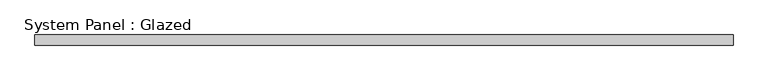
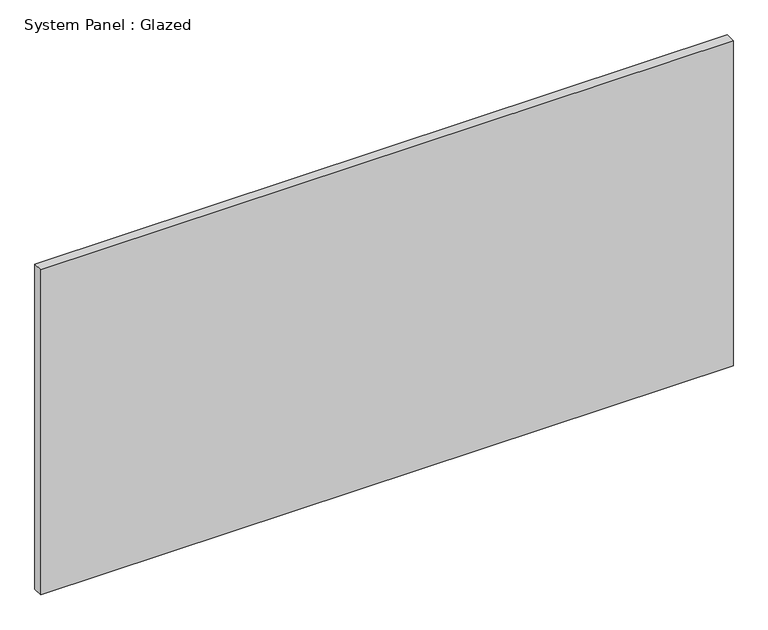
"""IFC4 building model written with IfcOpenShell, lengths in millimetres: plate geometry, System Panel : Glazed."""

from ifc_helpers import new_model, si_unit, origin, origin_with_axes, place, context, project, spatial, polyline, outline, extrude, source, transform, mapped, element, save


def system_panel_glazed_8df21279(model_context):
    return source(origin(), model_context, "Body", "SweptSolid", [
        extrude(outline(polyline([(876.1236512, 19.05), (-876.1236512, 19.05), (-876.1236512, 44.45), (876.1236512, 44.45), (876.1236512, 19.05)])), origin_with_axes(), (0.0, 0.0, 1.0), 869.5973025),
    ])


if __name__ == "__main__":
    model = new_model("IFC4")
    model_context = context("Model", 3, world=origin())
    ifc_project = project(units=[si_unit("LENGTHUNIT", "METRE", prefix="MILLI")], contexts=[model_context])
    site = spatial("IfcSite", under=ifc_project)
    building = spatial("IfcBuilding", under=site)
    placement = place(None, origin())
    system_panel_glazed_shape = system_panel_glazed_8df21279(model_context)
    element("IfcPlate", 1, ObjectType="System Panel : Glazed", at=placement, inside=building, context=model_context, shape_type="MappedRepresentation", body=[
        mapped(system_panel_glazed_shape, transform((0.0, 0.0, 0.0), x_axis=(1.0, 0.0, 0.0), y_axis=(0.0, 1.0, 0.0), z_axis=(0.0, 0.0, 1.0))),
    ])
    save(model, "model.ifc")
